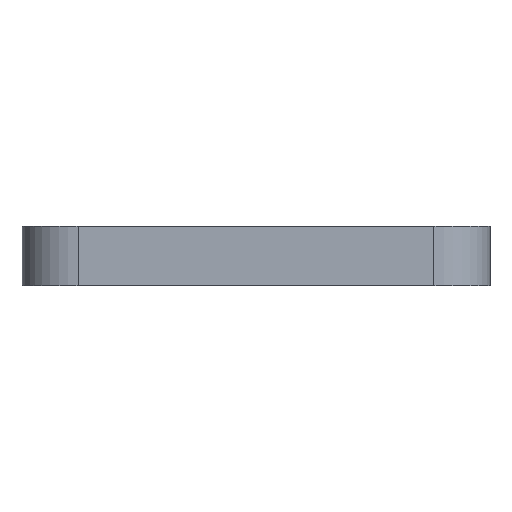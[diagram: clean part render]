
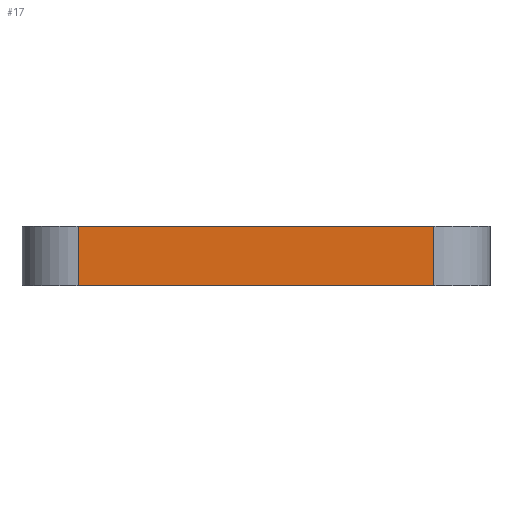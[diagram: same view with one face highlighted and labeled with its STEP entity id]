
A CAD part, left-side view. The second image highlights one B-rep face of the part: STEP entity #17.
In plain terms, the highlighted planar face has unit normal (-1, 0, 0).
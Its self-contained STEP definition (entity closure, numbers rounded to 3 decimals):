
#17 = ADVANCED_FACE('',(#18),#32,.F.);
#18 = FACE_BOUND('',#19,.F.);
#19 = EDGE_LOOP('',(#20,#55,#83,#111));
#20 = ORIENTED_EDGE('',*,*,#21,.F.);
#21 = EDGE_CURVE('',#22,#24,#26,.T.);
#22 = VERTEX_POINT('',#23);
#23 = CARTESIAN_POINT('',(-30.,-9.5,3.2));
#24 = VERTEX_POINT('',#25);
#25 = CARTESIAN_POINT('',(-30.,9.5,3.2));
#26 = SURFACE_CURVE('',#27,(#31,#43),.PCURVE_S1.);
#27 = LINE('',#28,#29);
#28 = CARTESIAN_POINT('',(-30.,-12.5,3.2));
#29 = VECTOR('',#30,1.);
#30 = DIRECTION('',(0.,1.,0.));
#31 = PCURVE('',#32,#37);
#32 = PLANE('',#33);
#33 = AXIS2_PLACEMENT_3D('',#34,#35,#36);
#34 = CARTESIAN_POINT('',(-30.,-12.5,0.));
#35 = DIRECTION('',(1.,0.,0.));
#36 = DIRECTION('',(0.,0.,1.));
#37 = DEFINITIONAL_REPRESENTATION('',(#38),#42);
#38 = LINE('',#39,#40);
#39 = CARTESIAN_POINT('',(3.2,0.));
#40 = VECTOR('',#41,1.);
#41 = DIRECTION('',(0.,-1.));
#42 = ( GEOMETRIC_REPRESENTATION_CONTEXT(2) 
PARAMETRIC_REPRESENTATION_CONTEXT() REPRESENTATION_CONTEXT('2D SPACE',''
  ) );
#43 = PCURVE('',#44,#49);
#44 = PLANE('',#45);
#45 = AXIS2_PLACEMENT_3D('',#46,#47,#48);
#46 = CARTESIAN_POINT('',(-30.,-12.5,3.2));
#47 = DIRECTION('',(0.,0.,1.));
#48 = DIRECTION('',(1.,0.,0.));
#49 = DEFINITIONAL_REPRESENTATION('',(#50),#54);
#50 = LINE('',#51,#52);
#51 = CARTESIAN_POINT('',(0.,0.));
#52 = VECTOR('',#53,1.);
#53 = DIRECTION('',(0.,1.));
#54 = ( GEOMETRIC_REPRESENTATION_CONTEXT(2) 
PARAMETRIC_REPRESENTATION_CONTEXT() REPRESENTATION_CONTEXT('2D SPACE',''
  ) );
#55 = ORIENTED_EDGE('',*,*,#56,.F.);
#56 = EDGE_CURVE('',#57,#22,#59,.T.);
#57 = VERTEX_POINT('',#58);
#58 = CARTESIAN_POINT('',(-30.,-9.5,0.));
#59 = SURFACE_CURVE('',#60,(#64,#71),.PCURVE_S1.);
#60 = LINE('',#61,#62);
#61 = CARTESIAN_POINT('',(-30.,-9.5,0.));
#62 = VECTOR('',#63,1.);
#63 = DIRECTION('',(0.,0.,1.));
#64 = PCURVE('',#32,#65);
#65 = DEFINITIONAL_REPRESENTATION('',(#66),#70);
#66 = LINE('',#67,#68);
#67 = CARTESIAN_POINT('',(0.,-3.));
#68 = VECTOR('',#69,1.);
#69 = DIRECTION('',(1.,0.));
#70 = ( GEOMETRIC_REPRESENTATION_CONTEXT(2) 
PARAMETRIC_REPRESENTATION_CONTEXT() REPRESENTATION_CONTEXT('2D SPACE',''
  ) );
#71 = PCURVE('',#72,#77);
#72 = CYLINDRICAL_SURFACE('',#73,3.);
#73 = AXIS2_PLACEMENT_3D('',#74,#75,#76);
#74 = CARTESIAN_POINT('',(-27.,-9.5,0.));
#75 = DIRECTION('',(0.,0.,1.));
#76 = DIRECTION('',(-1.,-0.,0.));
#77 = DEFINITIONAL_REPRESENTATION('',(#78),#82);
#78 = LINE('',#79,#80);
#79 = CARTESIAN_POINT('',(0.,0.));
#80 = VECTOR('',#81,1.);
#81 = DIRECTION('',(0.,1.));
#82 = ( GEOMETRIC_REPRESENTATION_CONTEXT(2) 
PARAMETRIC_REPRESENTATION_CONTEXT() REPRESENTATION_CONTEXT('2D SPACE',''
  ) );
#83 = ORIENTED_EDGE('',*,*,#84,.T.);
#84 = EDGE_CURVE('',#57,#85,#87,.T.);
#85 = VERTEX_POINT('',#86);
#86 = CARTESIAN_POINT('',(-30.,9.5,0.));
#87 = SURFACE_CURVE('',#88,(#92,#99),.PCURVE_S1.);
#88 = LINE('',#89,#90);
#89 = CARTESIAN_POINT('',(-30.,-12.5,0.));
#90 = VECTOR('',#91,1.);
#91 = DIRECTION('',(0.,1.,0.));
#92 = PCURVE('',#32,#93);
#93 = DEFINITIONAL_REPRESENTATION('',(#94),#98);
#94 = LINE('',#95,#96);
#95 = CARTESIAN_POINT('',(0.,0.));
#96 = VECTOR('',#97,1.);
#97 = DIRECTION('',(0.,-1.));
#98 = ( GEOMETRIC_REPRESENTATION_CONTEXT(2) 
PARAMETRIC_REPRESENTATION_CONTEXT() REPRESENTATION_CONTEXT('2D SPACE',''
  ) );
#99 = PCURVE('',#100,#105);
#100 = PLANE('',#101);
#101 = AXIS2_PLACEMENT_3D('',#102,#103,#104);
#102 = CARTESIAN_POINT('',(-30.,-12.5,0.));
#103 = DIRECTION('',(0.,0.,1.));
#104 = DIRECTION('',(1.,0.,0.));
#105 = DEFINITIONAL_REPRESENTATION('',(#106),#110);
#106 = LINE('',#107,#108);
#107 = CARTESIAN_POINT('',(0.,0.));
#108 = VECTOR('',#109,1.);
#109 = DIRECTION('',(0.,1.));
#110 = ( GEOMETRIC_REPRESENTATION_CONTEXT(2) 
PARAMETRIC_REPRESENTATION_CONTEXT() REPRESENTATION_CONTEXT('2D SPACE',''
  ) );
#111 = ORIENTED_EDGE('',*,*,#112,.T.);
#112 = EDGE_CURVE('',#85,#24,#113,.T.);
#113 = SURFACE_CURVE('',#114,(#118,#125),.PCURVE_S1.);
#114 = LINE('',#115,#116);
#115 = CARTESIAN_POINT('',(-30.,9.5,0.));
#116 = VECTOR('',#117,1.);
#117 = DIRECTION('',(0.,0.,1.));
#118 = PCURVE('',#32,#119);
#119 = DEFINITIONAL_REPRESENTATION('',(#120),#124);
#120 = LINE('',#121,#122);
#121 = CARTESIAN_POINT('',(0.,-22.));
#122 = VECTOR('',#123,1.);
#123 = DIRECTION('',(1.,0.));
#124 = ( GEOMETRIC_REPRESENTATION_CONTEXT(2) 
PARAMETRIC_REPRESENTATION_CONTEXT() REPRESENTATION_CONTEXT('2D SPACE',''
  ) );
#125 = PCURVE('',#126,#131);
#126 = CYLINDRICAL_SURFACE('',#127,3.);
#127 = AXIS2_PLACEMENT_3D('',#128,#129,#130);
#128 = CARTESIAN_POINT('',(-27.,9.5,0.));
#129 = DIRECTION('',(0.,0.,1.));
#130 = DIRECTION('',(-1.,-0.,0.));
#131 = DEFINITIONAL_REPRESENTATION('',(#132),#136);
#132 = LINE('',#133,#134);
#133 = CARTESIAN_POINT('',(-0.,0.));
#134 = VECTOR('',#135,1.);
#135 = DIRECTION('',(-0.,1.));
#136 = ( GEOMETRIC_REPRESENTATION_CONTEXT(2) 
PARAMETRIC_REPRESENTATION_CONTEXT() REPRESENTATION_CONTEXT('2D SPACE',''
  ) );
